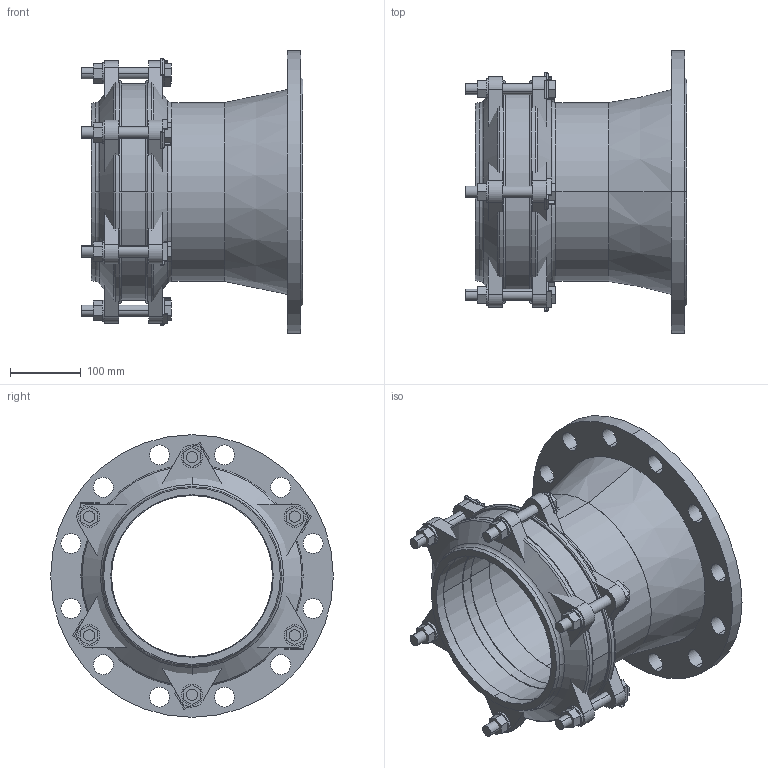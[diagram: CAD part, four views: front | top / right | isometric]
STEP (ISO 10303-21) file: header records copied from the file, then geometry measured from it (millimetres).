
FILE_DESCRIPTION(('STEP AP214'),'1');
FILE_NAME('EM10006356 DN 250-200.STP','2015-01-29T13:38:33',(' '),(' '),'Spatial InterOp 3D',' ',' ');
FILE_SCHEMA(('automotive_design'));
Length unit declared in the file: millimetre
Products named in the file (56): 3D-Objekt
Bounding box: 314 x 400 x 400 mm (x, y, z)
Volume: 5943481.8 mm3; surface area: 1282497.5 mm2
Topology: 56 solids, 56 shells, 427 faces, 942 edges, 626 vertices
Faces by surface type: plane 291, cylinder 108, cone 16, torus 12
Entity records: 16552 total; most frequent: DIRECTION 2186, CARTESIAN_POINT 2051, ORIENTED_EDGE 1884, EDGE_CURVE 942, AXIS2_PLACEMENT_3D 761, LINE 664, VECTOR 664, VERTEX_POINT 626
